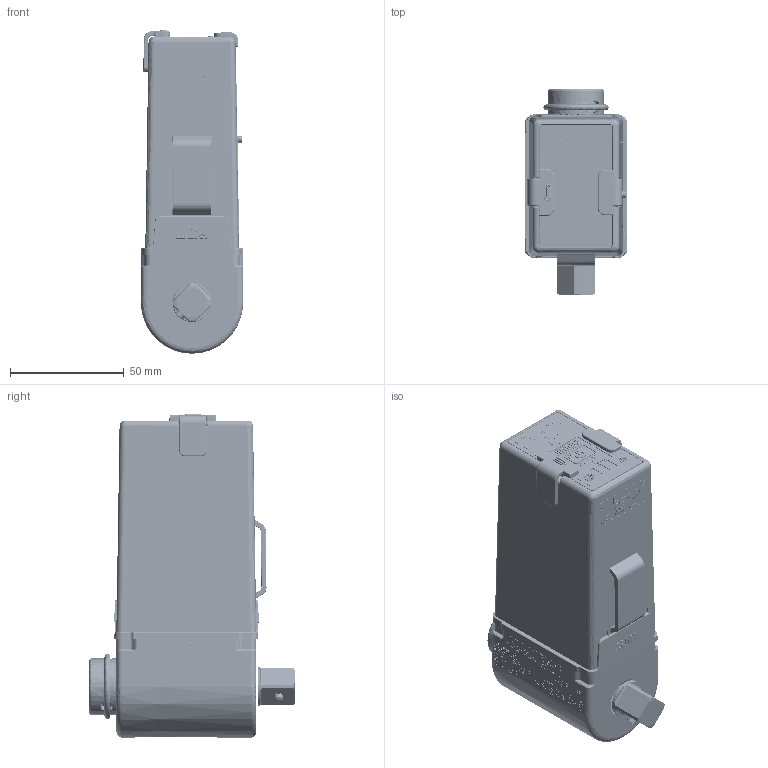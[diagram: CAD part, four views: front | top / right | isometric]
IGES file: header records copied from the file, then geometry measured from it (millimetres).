
Start section:  PTC IGES file: 6152210560_dim.igs
Global section: file name: 6152210560_dim.igs; native system: Creo Parametric by PTC Inc.; preprocessor: 2023254; author: S00000450; organization: Unknown; date: 20240301.151624; units: millimetre
Bounding box: 45 x 90.5 x 142.4 mm (x, y, z)
Surface area: 98775.6 mm2 (no closed solid volume)
Topology: 0 solids, 0 shells, 9153 faces, 50064 edges, 49999 vertices
Faces by surface type: bspline 4357, extrusion 3420, revolution 1376
